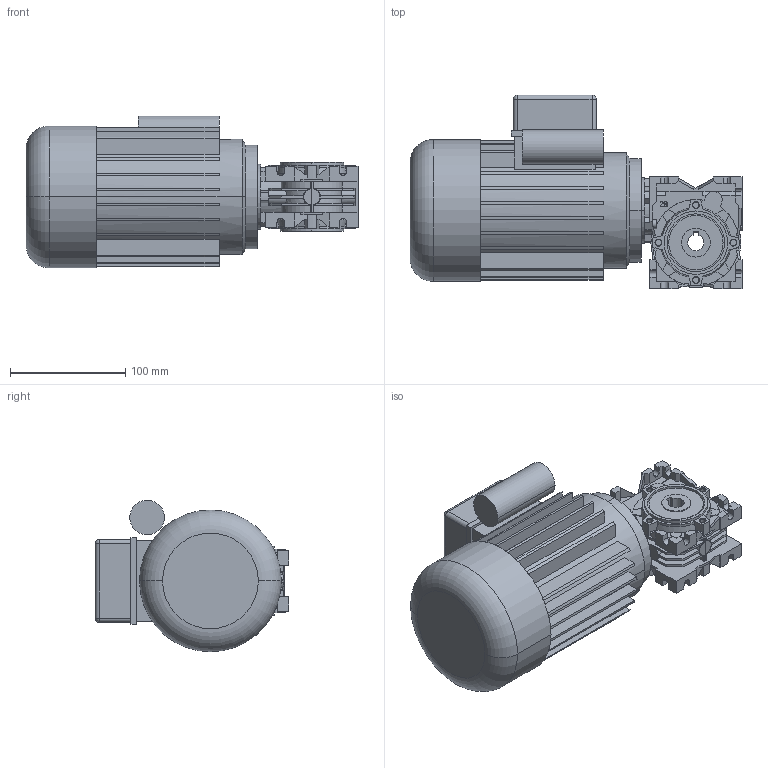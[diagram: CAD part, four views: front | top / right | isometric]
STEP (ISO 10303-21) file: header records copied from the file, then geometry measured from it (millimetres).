
FILE_DESCRIPTION (( 'STEP AP214' ), '1' );
FILE_NAME ('M63B14+RT28.STEP', '2020-04-16T16:04:07', ( '' ), ( '' ), 'SwSTEP 2.0', 'SolidWorks 2018', '' );
FILE_SCHEMA (( 'AUTOMOTIVE_DESIGN' ));
Length unit declared in the file: millimetre
Products named in the file (3): M63B14; M63B14+RT28; _F_RT_28_10_63_B14-G_AC_14__none.3d
Assembly tree (2 placements, depth 2):
  M63B14+RT28
    _F_RT_28_10_63_B14-G_AC_14__none.3d
    M63B14
Bounding box: 288 x 168 x 131.5 mm (x, y, z)
Volume: 2435021.5 mm3; surface area: 240051.5 mm2
Topology: 3 solids, 3 shells, 888 faces, 2469 edges, 1626 vertices
Faces by surface type: plane 586, cylinder 246, cone 26, torus 18, bspline 8, sphere 4
Entity records: 29956 total; most frequent: CARTESIAN_POINT 6348, ORIENTED_EDGE 4930, DIRECTION 4773, EDGE_CURVE 2465, VECTOR 1699, LINE 1699, VERTEX_POINT 1626, AXIS2_PLACEMENT_3D 1537
